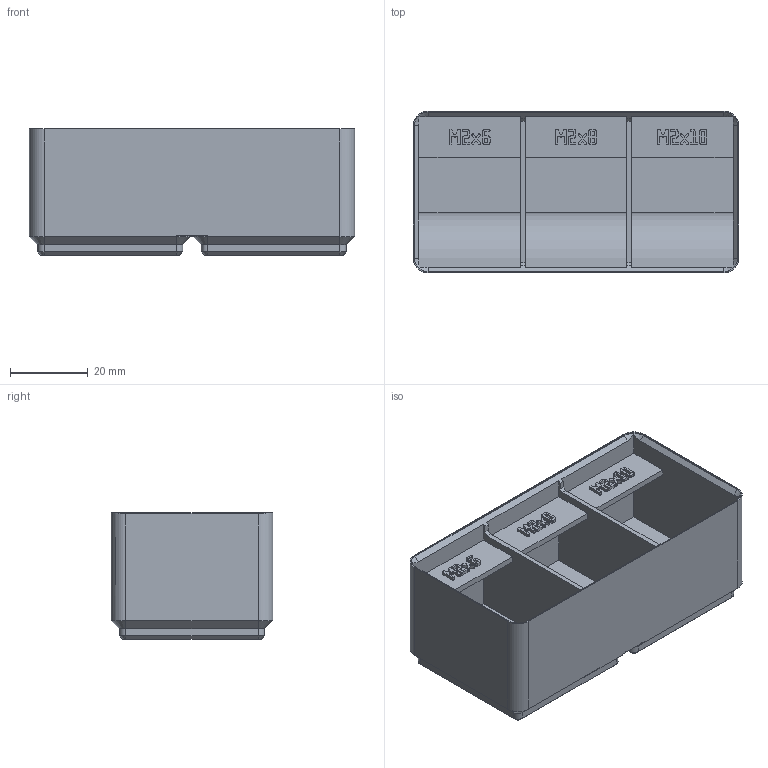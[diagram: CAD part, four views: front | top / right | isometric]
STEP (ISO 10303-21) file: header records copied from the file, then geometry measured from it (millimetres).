
FILE_DESCRIPTION(('Open CASCADE Model'),'2;1');
FILE_NAME('Open CASCADE Shape Model','2026-11-16T13:39:18',('Author'),( 'Open CASCADE'),'Open CASCADE STEP processor 8.0','build123d', 'Unknown');
FILE_SCHEMA(('AUTOMOTIVE_DESIGN { 1 0 10303 214 1 1 1 1 }'));
Products named in the file (1): SOLID
Bounding box: 83.5 x 41.5 x 32.4 mm (x, y, z)
Volume: 46151.3 mm3; surface area: 23525.2 mm2
Topology: 1 solids, 1 shells, 1514 faces, 4420 edges, 2928 vertices
Faces by surface type: plane 1471, cylinder 23, cone 20
Entity records: 103468 total; most frequent: CARTESIAN_POINT 20938, DIRECTION 13234, LINE 10049, VECTOR 10049, ORIENTED_EDGE 8840, PCURVE 8840, DEFINITIONAL_REPRESENTATION 8840, EDGE_CURVE 4420
